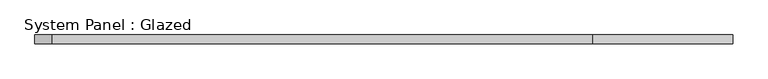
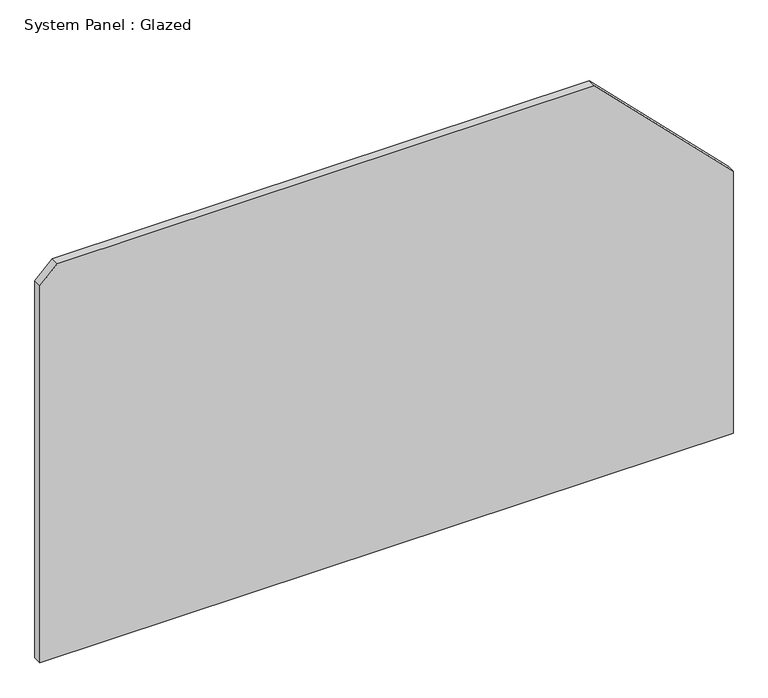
"""IFC4 building model written with IfcOpenShell, lengths in millimetres: plate geometry, System Panel : Glazed."""

from ifc_helpers import new_model, si_unit, frame, origin, place, context, project, spatial, polyline, outline, extrude, source, transform, mapped, element, save


def system_panel_glazed_3f13fcba(model_context):
    return source(origin(), model_context, "Body", "SweptSolid", [
        extrude(outline(polyline([(0.0, -1000.0), (0.0, 1000.0), (800.0, 1000.0), (1200.0, 600.0), (1200.0, -950.0), (1150.0, -1000.0), (0.0, -1000.0)])), frame((0.0, -49.5, 0.0), z_axis=(0.0, 1.0, 0.0), x_axis=(0.0, 0.0, 1.0)), (0.0, 0.0, 1.0), 25.0),
    ])


if __name__ == "__main__":
    model = new_model("IFC4")
    model_context = context("Model", 3, world=origin())
    ifc_project = project(units=[si_unit("LENGTHUNIT", "METRE", prefix="MILLI")], contexts=[model_context])
    site = spatial("IfcSite", under=ifc_project)
    building = spatial("IfcBuilding", under=site)
    placement = place(None, origin())
    system_panel_glazed_shape = system_panel_glazed_3f13fcba(model_context)
    element("IfcPlate", 1, ObjectType="System Panel : Glazed", at=placement, inside=building, context=model_context, shape_type="MappedRepresentation", body=[
        mapped(system_panel_glazed_shape, transform((0.0, 0.0, 0.0), x_axis=(1.0, 0.0, 0.0), y_axis=(0.0, 1.0, 0.0), z_axis=(0.0, 0.0, 1.0))),
    ])
    save(model, "model.ifc")
